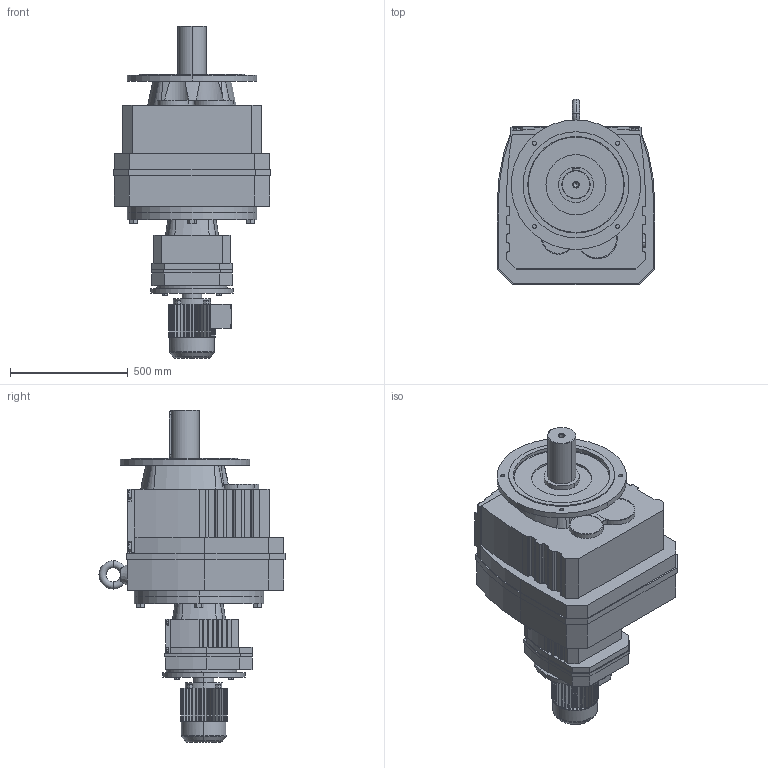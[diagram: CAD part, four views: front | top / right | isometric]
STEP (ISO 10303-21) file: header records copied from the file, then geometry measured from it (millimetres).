
FILE_DESCRIPTION(('Open CASCADE Model'),'2;1');
FILE_NAME('Open CASCADE Shape Model','2021-07-24T15:02:01',('Author'),( 'Open CASCADE'),'Open CASCADE STEP processor 6.3','Open CASCADE 6.3' ,'Unknown');
FILE_SCHEMA(('AUTOMOTIVE_DESIGN_CC2 { 1 2 10303 214 -1 1 5 4 }'));
Length unit declared in the file: millimetre
Products named in the file (4): 1_RF167R107DV100M-550; RF37‵167_RF167R107_550.step; 萇儂_350-DV100M-295-380-197-166.step; R_167_97.step
Assembly tree (3 placements, depth 2):
  1_RF167R107DV100M-550
    RF37‵167_RF167R107_550.step
    萇儂_350-DV100M-295-380-197-166.step
    R_167_97.step
Bounding box: 670 x 790 x 1410 mm (x, y, z)
Volume: 232475767.3 mm3; surface area: 4273864.5 mm2
Topology: 3 solids, 3 shells, 964 faces, 2559 edges, 1666 vertices
Faces by surface type: plane 702, cylinder 222, cone 28, torus 12
Entity records: 67351 total; most frequent: CARTESIAN_POINT 17969, DIRECTION 8697, ORIENTED_EDGE 5114, LINE 5114, VECTOR 5114, PCURVE 5114, DEFINITIONAL_REPRESENTATION 5114, EDGE_CURVE 2557
